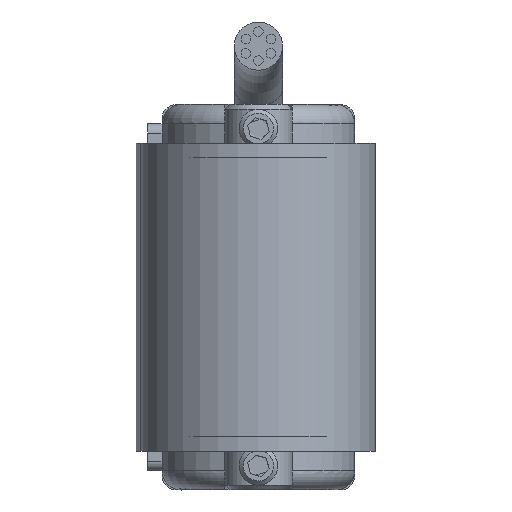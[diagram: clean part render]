
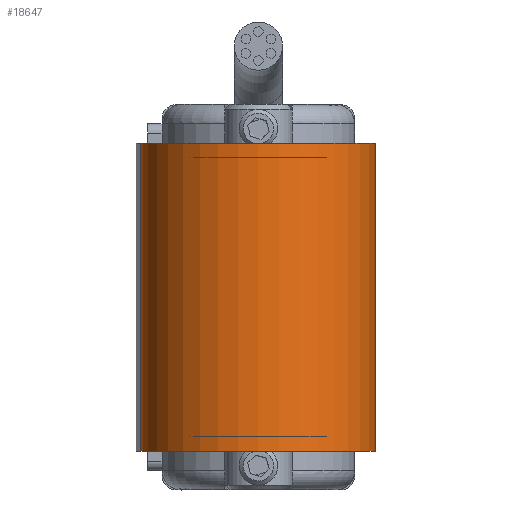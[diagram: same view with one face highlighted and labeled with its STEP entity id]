
A CAD part, front view. The second image highlights one B-rep face of the part: STEP entity #18647.
In plain terms, the highlighted cylindrical face has radius 12.2 mm (diameter 24.4 mm), a partial arc.
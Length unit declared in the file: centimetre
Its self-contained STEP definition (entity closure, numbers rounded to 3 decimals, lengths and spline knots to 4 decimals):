
#629=CYLINDRICAL_SURFACE('',#20525,1.22);
#1550=CIRCLE('',#20517,1.22);
#1553=CIRCLE('',#20526,1.22);
#3130=FACE_OUTER_BOUND('',#4227,.T.);
#4227=EDGE_LOOP('',(#16648,#16649,#16650,#16651));
#5581=LINE('',#32493,#6940);
#5588=LINE('',#32509,#6947);
#6940=VECTOR('',#25513,1.);
#6947=VECTOR('',#25530,1.);
#8873=VERTEX_POINT('',#32476);
#8875=VERTEX_POINT('',#32479);
#8879=VERTEX_POINT('',#32489);
#8884=VERTEX_POINT('',#32507);
#11461=EDGE_CURVE('',#8875,#8873,#1550,.T.);
#11468=EDGE_CURVE('',#8879,#8875,#5581,.T.);
#11476=EDGE_CURVE('',#8873,#8884,#5588,.T.);
#11477=EDGE_CURVE('',#8884,#8879,#1553,.T.);
#16648=ORIENTED_EDGE('',*,*,#11477,.T.);
#16649=ORIENTED_EDGE('',*,*,#11468,.T.);
#16650=ORIENTED_EDGE('',*,*,#11461,.T.);
#16651=ORIENTED_EDGE('',*,*,#11476,.T.);
#18647=ADVANCED_FACE('',(#3130),#629,.T.);
#20517=AXIS2_PLACEMENT_3D('',#32480,#25502,#25503);
#20525=AXIS2_PLACEMENT_3D('',#32510,#25531,#25532);
#20526=AXIS2_PLACEMENT_3D('',#32511,#25533,#25534);
#25502=DIRECTION('center_axis',(0.,0.,
1.));
#25503=DIRECTION('ref_axis',(-1.,0.,0.));
#25513=DIRECTION('',(0.,0.,-1.));
#25530=DIRECTION('',(0.,0.,1.));
#25531=DIRECTION('center_axis',(0.,0.,
1.));
#25532=DIRECTION('ref_axis',(-1.,0.,0.));
#25533=DIRECTION('center_axis',(0.,0.,
-1.));
#25534=DIRECTION('ref_axis',(-1.,0.,0.));
#32476=CARTESIAN_POINT('',(1.22,-13.,-1.6));
#32479=CARTESIAN_POINT('',(-1.22,-13.,-1.6));
#32480=CARTESIAN_POINT('Origin',(0.,-13.,-1.6));
#32489=CARTESIAN_POINT('',(-1.22,-13.,1.6));
#32493=CARTESIAN_POINT('',(-1.22,-13.,0.));
#32507=CARTESIAN_POINT('',(1.22,-13.,1.6));
#32509=CARTESIAN_POINT('',(1.22,-13.,0.));
#32510=CARTESIAN_POINT('Origin',(0.,-13.,0.));
#32511=CARTESIAN_POINT('Origin',(0.,-13.,1.6));
